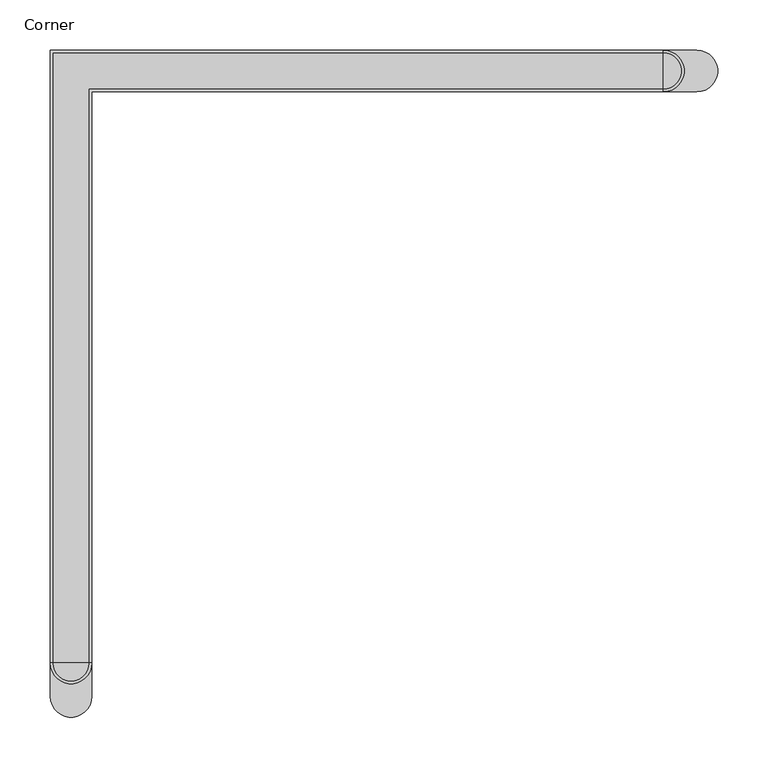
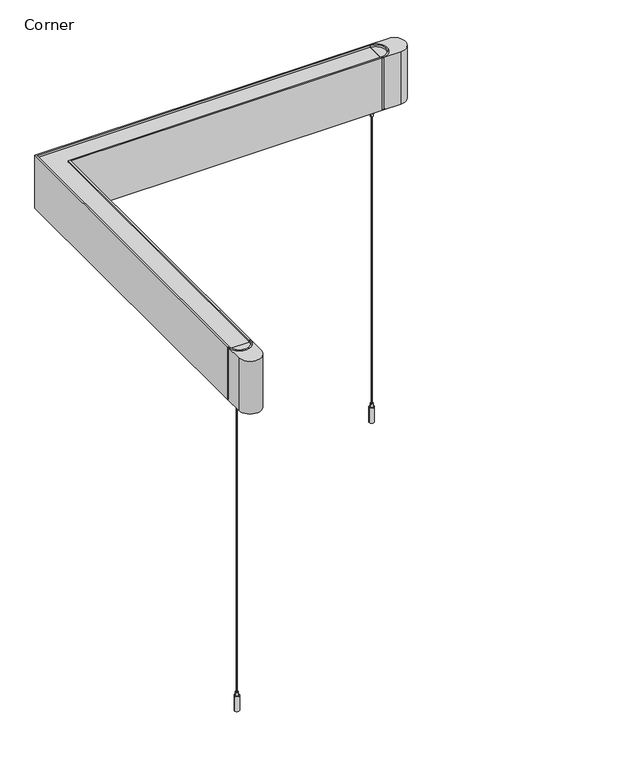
"""IFC4 building model written with IfcOpenShell, lengths in millimetres: light fixture geometry, Lighting-Pendant-Betacalco-Block-Corner : Corner."""

from ifc_helpers import new_model, si_unit, point, frame, frame_2d, origin, place, context, project, spatial, polyline, circle_curve, trimmed, segment, composite_curve, outline, extrude, source, transform, mapped, element, save
from ifc_brep_helpers import plane_surface, cylinder_surface, revolved_surface, advanced_brep


def corner_207d466a(model_context):
    return source(origin(), model_context, "Body", "SolidModel", [
        extrude(outline(composite_curve([segment(polyline([(588.9625, -20.6375), (588.9625, -18.0975)]), True, "CONTINUOUS"), segment(trimmed(circle_curve(frame_2d((588.9625, 0.0)), 18.0975), [point((588.9625, -18.0975))], [point((588.9625, 18.0975))], True, "CARTESIAN"), True, "CONTINUOUS"), segment(polyline([(588.9625, 18.0975), (588.9625, 20.6375)]), True, "CONTINUOUS"), segment(trimmed(circle_curve(frame_2d((588.9625, 0.0)), 20.6375), [point((588.9625, 20.6375))], [point((588.9625, -20.6375))], False, "CARTESIAN"), True, "CONTINUOUS")], self_intersect=False)), frame((0.0, 0.0, 611.1875), z_axis=(0.0, 0.0, 1.0), x_axis=(1.0, 0.0, 0.0)), (0.0, 0.0, 1.0), 100.0125),
        extrude(outline(composite_curve([segment(polyline([(588.9625, -18.0975), (588.9625, 18.0975)]), True, "CONTINUOUS"), segment(trimmed(circle_curve(frame_2d((588.9625, 0.0)), 18.0975), [point((588.9625, 18.0975))], [point((588.9625, -18.0975))], False, "CARTESIAN"), True, "CONTINUOUS")], self_intersect=False)), frame((0.0, 0.0, 705.9095588), z_axis=(0.0, 0.0, 1.0), x_axis=(1.0, 0.0, 0.0)), (0.0, 0.0, 1.0), 1.5875),
        advanced_brep(
        [(588.9625, 20.6375, 611.1875), (588.9625, -20.6375, 611.1875), (588.9625, -20.6375, 609.6), (588.9625, 20.6375, 609.6), (622.3, 20.6375, 609.6), (622.3, -20.6375, 609.6), (588.9625, 20.6375, 711.2), (588.9625, -20.6375, 711.2), (622.3, -20.6375, 711.2), (622.3, 20.6375, 711.2)],
        [
            (0, 1),
            (1, 0, circle_curve(frame((588.9625, 0.0, 611.1875), z_axis=(0.0, 0.0, 1.0), x_axis=(1.0, 0.0, 0.0)), 20.6375)),
            (2, 3),
            (3, 4),
            (4, 5, circle_curve(frame((622.3, 0.0, 609.6), z_axis=(0.0, 0.0, -1.0), x_axis=(1.0, 0.0, 0.0)), 20.6375)),
            (5, 2),
            (0, 3),
            (2, 1),
            (6, 7, circle_curve(frame((588.9625, 0.0, 711.2), z_axis=(0.0, 0.0, -1.0), x_axis=(1.0, 0.0, 0.0)), 20.6375)),
            (7, 8),
            (8, 9, circle_curve(frame((622.3, 0.0, 711.2), z_axis=(0.0, 0.0, 1.0), x_axis=(1.0, 0.0, 0.0)), 20.6375)),
            (9, 6),
            (6, 0),
            (1, 7),
            (5, 8),
            (4, 9),
        ],
        [
            plane_surface(frame((609.6, 0.0, 611.1875), z_axis=(0.0, 0.0, 1.0), x_axis=(0.0, 1.0, 0.0))),
            plane_surface(frame((609.6, 0.0, 609.6), z_axis=(0.0, 0.0, -1.0), x_axis=(0.0, -1.0, 0.0))),
            plane_surface(frame((588.9625, 20.6375, 611.1875), z_axis=(-1.0, 0.0, 0.0), x_axis=(0.0, 0.0, -1.0))),
            plane_surface(frame((609.6, 0.0, 711.2), z_axis=(0.0, 0.0, 1.0), x_axis=(0.0, -1.0, 0.0))),
            revolved_surface(polyline([(609.6, 0.0, 611.1875), (609.6, 0.0, 711.2)]), (588.9625, 0.0, 609.6), (0.0, 0.0, -1.0)),
            plane_surface(frame((588.9625, -20.6375, 711.2), z_axis=(0.0, -1.0, 0.0), x_axis=(0.0, 0.0, -1.0))),
            cylinder_surface(frame((622.3, 0.0, 609.6), z_axis=(0.0, 0.0, 1.0), x_axis=(1.0, 0.0, 0.0)), 20.6375),
            plane_surface(frame((622.3, 20.6375, 711.2), z_axis=(0.0, 1.0, 0.0), x_axis=(0.0, 0.0, -1.0))),
        ],
        [
            (0, [[1, 2]]),
            (1, [[3, 4, 5, 6]]),
            (2, [[-1, 7, -3, 8]]),
            (3, [[9, 10, 11, 12]]),
            (4, [[-9, 13, -2, 14]]),
            (5, [[-10, -14, -8, -6, 15]]),
            (6, [[-11, -15, -5, 16]]),
            (7, [[-12, -16, -4, -7, -13]]),
        ],
    ),
        extrude(outline(composite_curve([segment(polyline([(-20.6375, -588.9625), (-18.0975, -588.9625)]), True, "CONTINUOUS"), segment(trimmed(circle_curve(frame_2d((0.0, -588.9625)), 18.0975), [point((-18.0975, -588.9625))], [point((18.0975, -588.9625))], True, "CARTESIAN"), True, "CONTINUOUS"), segment(polyline([(18.0975, -588.9625), (20.6375, -588.9625)]), True, "CONTINUOUS"), segment(trimmed(circle_curve(frame_2d((0.0, -588.9625)), 20.6375), [point((20.6375, -588.9625))], [point((-20.6375, -588.9625))], False, "CARTESIAN"), True, "CONTINUOUS")], self_intersect=False)), frame((0.0, 0.0, 611.1875), z_axis=(0.0, 0.0, 1.0), x_axis=(1.0, 0.0, 0.0)), (0.0, 0.0, 1.0), 100.0125),
        extrude(outline(composite_curve([segment(polyline([(-18.0975, -588.9625), (18.0975, -588.9625)]), True, "CONTINUOUS"), segment(trimmed(circle_curve(frame_2d((0.0, -588.9625)), 18.0975), [point((18.0975, -588.9625))], [point((-18.0975, -588.9625))], False, "CARTESIAN"), True, "CONTINUOUS")], self_intersect=False)), frame((0.0, 0.0, 705.9095588), z_axis=(0.0, 0.0, 1.0), x_axis=(1.0, 0.0, 0.0)), (0.0, 0.0, 1.0), 1.5875),
        advanced_brep(
        [(20.6375, -588.9625, 611.1875), (-20.6375, -588.9625, 611.1875), (-20.6375, -588.9625, 609.6), (20.6375, -588.9625, 609.6), (20.6375, -622.3, 609.6), (-20.6375, -622.3, 609.6), (20.6375, -588.9625, 711.2), (-20.6375, -588.9625, 711.2), (-20.6375, -622.3, 711.2), (20.6375, -622.3, 711.2)],
        [
            (0, 1),
            (1, 0, circle_curve(frame((0.0, -588.9625, 611.1875), z_axis=(0.0, 0.0, 1.0), x_axis=(0.0, -1.0, 0.0)), 20.6375)),
            (2, 3),
            (3, 4),
            (4, 5, circle_curve(frame((0.0, -622.3, 609.6), z_axis=(0.0, 0.0, -1.0), x_axis=(0.0, -1.0, 0.0)), 20.6375)),
            (5, 2),
            (0, 3),
            (2, 1),
            (6, 7, circle_curve(frame((0.0, -588.9625, 711.2), z_axis=(0.0, 0.0, -1.0), x_axis=(0.0, -1.0, 0.0)), 20.6375)),
            (7, 8),
            (8, 9, circle_curve(frame((0.0, -622.3, 711.2), z_axis=(0.0, 0.0, 1.0), x_axis=(0.0, -1.0, 0.0)), 20.6375)),
            (9, 6),
            (6, 0),
            (1, 7),
            (5, 8),
            (4, 9),
        ],
        [
            plane_surface(frame((0.0, -609.6, 611.1875), z_axis=(0.0, 0.0, 1.0), x_axis=(1.0, 0.0, 0.0))),
            plane_surface(frame((0.0, -609.6, 609.6), z_axis=(0.0, 0.0, -1.0), x_axis=(-1.0, 0.0, 0.0))),
            plane_surface(frame((20.6375, -588.9625, 611.1875), z_axis=(0.0, 1.0, 0.0), x_axis=(0.0, 0.0, -1.0))),
            plane_surface(frame((0.0, -609.6, 711.2), z_axis=(0.0, 0.0, 1.0), x_axis=(-1.0, 0.0, 0.0))),
            revolved_surface(polyline([(0.0, -609.6, 611.1875), (0.0, -609.6, 711.2)]), (0.0, -588.9625, 609.6), (0.0, 0.0, -1.0)),
            plane_surface(frame((-20.6375, -588.9625, 711.2), z_axis=(-1.0, 0.0, 0.0), x_axis=(0.0, 0.0, -1.0))),
            cylinder_surface(frame((0.0, -622.3, 609.6), z_axis=(0.0, 0.0, 1.0), x_axis=(0.0, -1.0, 0.0)), 20.6375),
            plane_surface(frame((20.6375, -622.3, 711.2), z_axis=(1.0, 0.0, 0.0), x_axis=(0.0, 0.0, -1.0))),
        ],
        [
            (0, [[1, 2]]),
            (1, [[3, 4, 5, 6]]),
            (2, [[-1, 7, -3, 8]]),
            (3, [[9, 10, 11, 12]]),
            (4, [[-9, 13, -2, 14]]),
            (5, [[-10, -14, -8, -6, 15]]),
            (6, [[-11, -15, -5, 16]]),
            (7, [[-12, -16, -4, -7, -13]]),
        ],
    ),
        advanced_brep(
        [(585.7875015, 0.0, 0.0), (576.8974985, 0.0, 0.0), (576.8974985, 0.0, 28.4480024), (585.7875015, 0.0, 28.4480024), (578.8025002, 0.0, 28.4480024), (583.8824998, 0.0, 28.4480024), (578.8025002, 0.0, 35.4330037), (583.8824998, 0.0, 35.4330037), (581.3425, 0.0, 35.4330037), (581.3425, 0.0, 0.0)],
        [
            (0, 1, circle_curve(frame((581.3425, 0.0, 0.0), z_axis=(0.0, 0.0, 1.0), x_axis=(-1.0, 0.0, 0.0)), 4.4450015)),
            (1, 2),
            (2, 3, circle_curve(frame((581.3425, 0.0, 28.4480024), z_axis=(0.0, 0.0, -1.0), x_axis=(-1.0, 0.0, 0.0)), 4.4450015)),
            (3, 0),
            (1, 0, circle_curve(frame((581.3425, 0.0, 0.0), z_axis=(0.0, 0.0, 1.0), x_axis=(-1.0, 0.0, 0.0)), 4.4450015)),
            (3, 2, circle_curve(frame((581.3425, 0.0, 28.4480024), z_axis=(0.0, 0.0, -1.0), x_axis=(-1.0, 0.0, 0.0)), 4.4450015)),
            (2, 4),
            (4, 5, circle_curve(frame((581.3425, 0.0, 28.4480024), z_axis=(0.0, 0.0, -1.0), x_axis=(-1.0, 0.0, 0.0)), 2.5399998)),
            (5, 3),
            (5, 4, circle_curve(frame((581.3425, 0.0, 28.4480024), z_axis=(0.0, 0.0, -1.0), x_axis=(-1.0, 0.0, 0.0)), 2.5399998)),
            (4, 6),
            (6, 7, circle_curve(frame((581.3425, 0.0, 35.4330037), z_axis=(0.0, 0.0, -1.0), x_axis=(-1.0, 0.0, 0.0)), 2.5399998)),
            (7, 5),
            (7, 6, circle_curve(frame((581.3425, 0.0, 35.4330037), z_axis=(0.0, 0.0, -1.0), x_axis=(-1.0, 0.0, 0.0)), 2.5399998)),
            (6, 8),
            (8, 7),
            (9, 1),
            (0, 9),
        ],
        [
            cylinder_surface(frame((581.3425, 0.0, 2366.7150031), z_axis=(0.0, 0.0, -1.0), x_axis=(-1.0, 0.0, 0.0)), 4.4450015),
            plane_surface(frame((581.3425, 0.0, 28.4480024), z_axis=(0.0, 0.0, 1.0), x_axis=(-1.0, 0.0, 0.0))),
            cylinder_surface(frame((581.3425, 0.0, 2366.7150031), z_axis=(0.0, 0.0, -1.0), x_axis=(-1.0, 0.0, 0.0)), 2.5399998),
            plane_surface(frame((581.3425, 0.0, 35.4330037), z_axis=(0.0, 0.0, 1.0), x_axis=(-1.0, 0.0, 0.0))),
            plane_surface(frame((581.3425, 0.0, 0.0), z_axis=(0.0, 0.0, -1.0), x_axis=(-1.0, 0.0, 0.0))),
        ],
        [
            (0, [[1, 2, 3, 4]]),
            (0, [[5, -4, 6, -2]]),
            (1, [[-3, 7, 8, 9]]),
            (1, [[-6, -9, 10, -7]]),
            (2, [[-8, 11, 12, 13]]),
            (2, [[-10, -13, 14, -11]]),
            (3, [[-12, 15, 16]]),
            (3, [[-14, -16, -15]]),
            (4, [[17, -1, 18]]),
            (4, [[-18, -5, -17]]),
        ],
    ),
        advanced_brep(
        [(582.1362476, 0.0, 35.4330037), (580.5487524, 0.0, 35.4330037), (580.5487524, 0.0, 589.2774601), (582.1362476, 0.0, 589.2774601), (581.3425, 0.0, 35.4330037), (581.3425, 0.0, 589.2774601)],
        [
            (0, 1, circle_curve(frame((581.3425, 0.0, 35.4330037), z_axis=(0.0, 0.0, 1.0), x_axis=(-1.0, 0.0, 0.0)), 0.7937476)),
            (1, 2),
            (2, 3, circle_curve(frame((581.3425, 0.0, 589.2774601), z_axis=(0.0, 0.0, -1.0), x_axis=(-1.0, 0.0, 0.0)), 0.7937476)),
            (3, 0),
            (1, 0, circle_curve(frame((581.3425, 0.0, 35.4330037), z_axis=(0.0, 0.0, 1.0), x_axis=(-1.0, 0.0, 0.0)), 0.7937476)),
            (3, 2, circle_curve(frame((581.3425, 0.0, 589.2774601), z_axis=(0.0, 0.0, -1.0), x_axis=(-1.0, 0.0, 0.0)), 0.7937476)),
            (4, 1),
            (0, 4),
            (2, 5),
            (5, 3),
        ],
        [
            cylinder_surface(frame((581.3425, 0.0, 2366.7150031), z_axis=(0.0, 0.0, -1.0), x_axis=(-1.0, 0.0, 0.0)), 0.7937476),
            plane_surface(frame((581.3425, 0.0, 35.4330037), z_axis=(0.0, 0.0, -1.0), x_axis=(-1.0, 0.0, 0.0))),
            plane_surface(frame((581.3425, 0.0, 589.2774601), z_axis=(0.0, 0.0, 1.0), x_axis=(-1.0, 0.0, 0.0))),
        ],
        [
            (0, [[1, 2, 3, 4]]),
            (0, [[5, -4, 6, -2]]),
            (1, [[7, -1, 8]]),
            (1, [[-8, -5, -7]]),
            (2, [[-3, 9, 10]]),
            (2, [[-6, -10, -9]]),
        ],
    ),
        advanced_brep(
        [(585.7875015, 0.0, 596.2624614), (576.8974985, 0.0, 596.2624614), (576.8974985, 0.0, 609.6), (585.7875015, 0.0, 609.6), (583.8824998, 0.0, 596.2624614), (578.8025002, 0.0, 596.2624614), (583.8824998, 0.0, 589.2774601), (578.8025002, 0.0, 589.2774601), (581.3425, 0.0, 589.2774601), (581.3425, 0.0, 609.6)],
        [
            (0, 1, circle_curve(frame((581.3425, 0.0, 596.2624614), z_axis=(0.0, 0.0, 1.0), x_axis=(-1.0, 0.0, 0.0)), 4.4450015)),
            (1, 2),
            (2, 3, circle_curve(frame((581.3425, 0.0, 609.6), z_axis=(0.0, 0.0, -1.0), x_axis=(-1.0, 0.0, 0.0)), 4.4450015)),
            (3, 0),
            (1, 0, circle_curve(frame((581.3425, 0.0, 596.2624614), z_axis=(0.0, 0.0, 1.0), x_axis=(-1.0, 0.0, 0.0)), 4.4450015)),
            (3, 2, circle_curve(frame((581.3425, 0.0, 609.6), z_axis=(0.0, 0.0, -1.0), x_axis=(-1.0, 0.0, 0.0)), 4.4450015)),
            (4, 5, circle_curve(frame((581.3425, 0.0, 596.2624614), z_axis=(0.0, 0.0, 1.0), x_axis=(-1.0, 0.0, 0.0)), 2.5399998)),
            (5, 1),
            (0, 4),
            (5, 4, circle_curve(frame((581.3425, 0.0, 596.2624614), z_axis=(0.0, 0.0, 1.0), x_axis=(-1.0, 0.0, 0.0)), 2.5399998)),
            (6, 7, circle_curve(frame((581.3425, 0.0, 589.2774601), z_axis=(0.0, 0.0, 1.0), x_axis=(-1.0, 0.0, 0.0)), 2.5399998)),
            (7, 5),
            (4, 6),
            (7, 6, circle_curve(frame((581.3425, 0.0, 589.2774601), z_axis=(0.0, 0.0, 1.0), x_axis=(-1.0, 0.0, 0.0)), 2.5399998)),
            (8, 7),
            (6, 8),
            (2, 9),
            (9, 3),
        ],
        [
            cylinder_surface(frame((581.3425, 0.0, 2366.7150031), z_axis=(0.0, 0.0, -1.0), x_axis=(-1.0, 0.0, 0.0)), 4.4450015),
            plane_surface(frame((581.3425, 0.0, 596.2624614), z_axis=(0.0, 0.0, -1.0), x_axis=(-1.0, 0.0, 0.0))),
            cylinder_surface(frame((581.3425, 0.0, 2366.7150031), z_axis=(0.0, 0.0, -1.0), x_axis=(-1.0, 0.0, 0.0)), 2.5399998),
            plane_surface(frame((581.3425, 0.0, 589.2774601), z_axis=(0.0, 0.0, -1.0), x_axis=(-1.0, 0.0, 0.0))),
            plane_surface(frame((581.3425, 0.0, 609.6), z_axis=(0.0, 0.0, 1.0), x_axis=(-1.0, 0.0, 0.0))),
        ],
        [
            (0, [[1, 2, 3, 4]]),
            (0, [[5, -4, 6, -2]]),
            (1, [[7, 8, -1, 9]]),
            (1, [[10, -9, -5, -8]]),
            (2, [[11, 12, -7, 13]]),
            (2, [[14, -13, -10, -12]]),
            (3, [[15, -11, 16]]),
            (3, [[-16, -14, -15]]),
            (4, [[-3, 17, 18]]),
            (4, [[-6, -18, -17]]),
        ],
    ),
        advanced_brep(
        [(4.4450015, -581.3425, 0.0), (-4.4450015, -581.3425, 0.0), (-4.4450015, -581.3425, 28.4480024), (4.4450015, -581.3425, 28.4480024), (-2.5399998, -581.3425, 28.4480024), (2.5399998, -581.3425, 28.4480024), (-2.5399998, -581.3425, 35.4330037), (2.5399998, -581.3425, 35.4330037), (0.0, -581.3425, 35.4330037), (0.0, -581.3425, 0.0)],
        [
            (0, 1, circle_curve(frame((0.0, -581.3425, 0.0), z_axis=(0.0, 0.0, 1.0), x_axis=(-1.0, 0.0, 0.0)), 4.4450015)),
            (1, 2),
            (2, 3, circle_curve(frame((0.0, -581.3425, 28.4480024), z_axis=(0.0, 0.0, -1.0), x_axis=(-1.0, 0.0, 0.0)), 4.4450015)),
            (3, 0),
            (1, 0, circle_curve(frame((0.0, -581.3425, 0.0), z_axis=(0.0, 0.0, 1.0), x_axis=(-1.0, 0.0, 0.0)), 4.4450015)),
            (3, 2, circle_curve(frame((0.0, -581.3425, 28.4480024), z_axis=(0.0, 0.0, -1.0), x_axis=(-1.0, 0.0, 0.0)), 4.4450015)),
            (2, 4),
            (4, 5, circle_curve(frame((0.0, -581.3425, 28.4480024), z_axis=(0.0, 0.0, -1.0), x_axis=(-1.0, 0.0, 0.0)), 2.5399998)),
            (5, 3),
            (5, 4, circle_curve(frame((0.0, -581.3425, 28.4480024), z_axis=(0.0, 0.0, -1.0), x_axis=(-1.0, 0.0, 0.0)), 2.5399998)),
            (4, 6),
            (6, 7, circle_curve(frame((0.0, -581.3425, 35.4330037), z_axis=(0.0, 0.0, -1.0), x_axis=(-1.0, 0.0, 0.0)), 2.5399998)),
            (7, 5),
            (7, 6, circle_curve(frame((0.0, -581.3425, 35.4330037), z_axis=(0.0, 0.0, -1.0), x_axis=(-1.0, 0.0, 0.0)), 2.5399998)),
            (6, 8),
            (8, 7),
            (9, 1),
            (0, 9),
        ],
        [
            cylinder_surface(frame((0.0, -581.3425, 2366.7150031), z_axis=(0.0, 0.0, -1.0), x_axis=(-1.0, 0.0, 0.0)), 4.4450015),
            plane_surface(frame((0.0, -581.3425, 28.4480024), z_axis=(0.0, 0.0, 1.0), x_axis=(-1.0, 0.0, 0.0))),
            cylinder_surface(frame((0.0, -581.3425, 2366.7150031), z_axis=(0.0, 0.0, -1.0), x_axis=(-1.0, 0.0, 0.0)), 2.5399998),
            plane_surface(frame((0.0, -581.3425, 35.4330037), z_axis=(0.0, 0.0, 1.0), x_axis=(-1.0, 0.0, 0.0))),
            plane_surface(frame((0.0, -581.3425, 0.0), z_axis=(0.0, 0.0, -1.0), x_axis=(-1.0, 0.0, 0.0))),
        ],
        [
            (0, [[1, 2, 3, 4]]),
            (0, [[5, -4, 6, -2]]),
            (1, [[-3, 7, 8, 9]]),
            (1, [[-6, -9, 10, -7]]),
            (2, [[-8, 11, 12, 13]]),
            (2, [[-10, -13, 14, -11]]),
            (3, [[-12, 15, 16]]),
            (3, [[-14, -16, -15]]),
            (4, [[17, -1, 18]]),
            (4, [[-18, -5, -17]]),
        ],
    ),
        advanced_brep(
        [(0.7937476, -581.3425, 35.4330037), (-0.7937476, -581.3425, 35.4330037), (-0.7937476, -581.3425, 589.2774601), (0.7937476, -581.3425, 589.2774601), (0.0, -581.3425, 35.4330037), (0.0, -581.3425, 589.2774601)],
        [
            (0, 1, circle_curve(frame((0.0, -581.3425, 35.4330037), z_axis=(0.0, 0.0, 1.0), x_axis=(-1.0, 0.0, 0.0)), 0.7937476)),
            (1, 2),
            (2, 3, circle_curve(frame((0.0, -581.3425, 589.2774601), z_axis=(0.0, 0.0, -1.0), x_axis=(-1.0, 0.0, 0.0)), 0.7937476)),
            (3, 0),
            (1, 0, circle_curve(frame((0.0, -581.3425, 35.4330037), z_axis=(0.0, 0.0, 1.0), x_axis=(-1.0, 0.0, 0.0)), 0.7937476)),
            (3, 2, circle_curve(frame((0.0, -581.3425, 589.2774601), z_axis=(0.0, 0.0, -1.0), x_axis=(-1.0, 0.0, 0.0)), 0.7937476)),
            (4, 1),
            (0, 4),
            (2, 5),
            (5, 3),
        ],
        [
            cylinder_surface(frame((0.0, -581.3425, 2366.7150031), z_axis=(0.0, 0.0, -1.0), x_axis=(-1.0, 0.0, 0.0)), 0.7937476),
            plane_surface(frame((0.0, -581.3425, 35.4330037), z_axis=(0.0, 0.0, -1.0), x_axis=(-1.0, 0.0, 0.0))),
            plane_surface(frame((0.0, -581.3425, 589.2774601), z_axis=(0.0, 0.0, 1.0), x_axis=(-1.0, 0.0, 0.0))),
        ],
        [
            (0, [[1, 2, 3, 4]]),
            (0, [[5, -4, 6, -2]]),
            (1, [[7, -1, 8]]),
            (1, [[-8, -5, -7]]),
            (2, [[-3, 9, 10]]),
            (2, [[-6, -10, -9]]),
        ],
    ),
        advanced_brep(
        [(4.4450015, -581.3425, 596.2624614), (-4.4450015, -581.3425, 596.2624614), (-4.4450015, -581.3425, 609.6), (4.4450015, -581.3425, 609.6), (2.5399998, -581.3425, 596.2624614), (-2.5399998, -581.3425, 596.2624614), (2.5399998, -581.3425, 589.2774601), (-2.5399998, -581.3425, 589.2774601), (0.0, -581.3425, 589.2774601), (0.0, -581.3425, 609.6)],
        [
            (0, 1, circle_curve(frame((0.0, -581.3425, 596.2624614), z_axis=(0.0, 0.0, 1.0), x_axis=(-1.0, 0.0, 0.0)), 4.4450015)),
            (1, 2),
            (2, 3, circle_curve(frame((0.0, -581.3425, 609.6), z_axis=(0.0, 0.0, -1.0), x_axis=(-1.0, 0.0, 0.0)), 4.4450015)),
            (3, 0),
            (1, 0, circle_curve(frame((0.0, -581.3425, 596.2624614), z_axis=(0.0, 0.0, 1.0), x_axis=(-1.0, 0.0, 0.0)), 4.4450015)),
            (3, 2, circle_curve(frame((0.0, -581.3425, 609.6), z_axis=(0.0, 0.0, -1.0), x_axis=(-1.0, 0.0, 0.0)), 4.4450015)),
            (4, 5, circle_curve(frame((0.0, -581.3425, 596.2624614), z_axis=(0.0, 0.0, 1.0), x_axis=(-1.0, 0.0, 0.0)), 2.5399998)),
            (5, 1),
            (0, 4),
            (5, 4, circle_curve(frame((0.0, -581.3425, 596.2624614), z_axis=(0.0, 0.0, 1.0), x_axis=(-1.0, 0.0, 0.0)), 2.5399998)),
            (6, 7, circle_curve(frame((0.0, -581.3425, 589.2774601), z_axis=(0.0, 0.0, 1.0), x_axis=(-1.0, 0.0, 0.0)), 2.5399998)),
            (7, 5),
            (4, 6),
            (7, 6, circle_curve(frame((0.0, -581.3425, 589.2774601), z_axis=(0.0, 0.0, 1.0), x_axis=(-1.0, 0.0, 0.0)), 2.5399998)),
            (8, 7),
            (6, 8),
            (2, 9),
            (9, 3),
        ],
        [
            cylinder_surface(frame((0.0, -581.3425, 2366.7150031), z_axis=(0.0, 0.0, -1.0), x_axis=(-1.0, 0.0, 0.0)), 4.4450015),
            plane_surface(frame((0.0, -581.3425, 596.2624614), z_axis=(0.0, 0.0, -1.0), x_axis=(-1.0, 0.0, 0.0))),
            cylinder_surface(frame((0.0, -581.3425, 2366.7150031), z_axis=(0.0, 0.0, -1.0), x_axis=(-1.0, 0.0, 0.0)), 2.5399998),
            plane_surface(frame((0.0, -581.3425, 589.2774601), z_axis=(0.0, 0.0, -1.0), x_axis=(-1.0, 0.0, 0.0))),
            plane_surface(frame((0.0, -581.3425, 609.6), z_axis=(0.0, 0.0, 1.0), x_axis=(-1.0, 0.0, 0.0))),
        ],
        [
            (0, [[1, 2, 3, 4]]),
            (0, [[5, -4, 6, -2]]),
            (1, [[7, 8, -1, 9]]),
            (1, [[10, -9, -5, -8]]),
            (2, [[11, 12, -7, 13]]),
            (2, [[14, -13, -10, -12]]),
            (3, [[15, -11, 16]]),
            (3, [[-16, -14, -15]]),
            (4, [[-3, 17, 18]]),
            (4, [[-6, -18, -17]]),
        ],
    ),
        extrude(outline(polyline([(588.9625, 18.0975), (588.9625, -18.0975), (18.0975, -18.0975), (18.0975, -588.9625), (-18.0975, -588.9625), (-18.0975, 18.0975), (588.9625, 18.0975)])), frame((0.0, 0.0, 609.6), z_axis=(0.0, 0.0, 1.0), x_axis=(1.0, 0.0, 0.0)), (0.0, 0.0, 1.0), 1.5875),
        extrude(outline(polyline([(588.9625, 18.0975), (588.9625, -18.0975), (18.0975, -18.0975), (18.0975, -588.9625), (-18.0975, -588.9625), (-18.0975, 18.0975), (588.9625, 18.0975)])), frame((0.0, 0.0, 663.287913), z_axis=(0.0, 0.0, 1.0), x_axis=(1.0, 0.0, 0.0)), (0.0, 0.0, 1.0), 1.5875),
        extrude(outline(polyline([(588.9625, 18.0975), (588.9625, -18.0975), (18.0975, -18.0975), (18.0975, -588.9625), (-18.0975, -588.9625), (-18.0975, 18.0975), (588.9625, 18.0975)])), frame((0.0, 0.0, 705.9095588), z_axis=(0.0, 0.0, 1.0), x_axis=(1.0, 0.0, 0.0)), (0.0, 0.0, 1.0), 1.5875),
        extrude(outline(polyline([(588.9625, 20.6375), (588.9625, 18.0975), (-18.0975, 18.0975), (-18.0975, -588.9625), (-20.6375, -588.9625), (-20.6375, 20.6375), (588.9625, 20.6375)])), frame((0.0, 0.0, 609.6), z_axis=(0.0, 0.0, 1.0), x_axis=(1.0, 0.0, 0.0)), (0.0, 0.0, 1.0), 101.6),
        extrude(outline(polyline([(588.9625, -18.0975), (588.9625, -20.6375), (20.6375, -20.6375), (20.6375, -588.9625), (18.0975, -588.9625), (18.0975, -18.0975), (588.9625, -18.0975)])), frame((0.0, 0.0, 609.6), z_axis=(0.0, 0.0, 1.0), x_axis=(1.0, 0.0, 0.0)), (0.0, 0.0, 1.0), 101.6),
    ])


if __name__ == "__main__":
    model = new_model("IFC4")
    model_context = context("Model", 3, world=origin())
    ifc_project = project(units=[si_unit("LENGTHUNIT", "METRE", prefix="MILLI")], contexts=[model_context])
    site = spatial("IfcSite", under=ifc_project)
    building = spatial("IfcBuilding", under=site)
    placement = place(None, origin())
    corner_shape = corner_207d466a(model_context)
    element("IfcLightFixture", 1, ObjectType="Lighting-Pendant-Betacalco-Block-Corner : Corner", at=placement, inside=building, context=model_context, shape_type="MappedRepresentation", body=[
        mapped(corner_shape, transform((0.0, 0.0, 0.0), x_axis=(1.0, 0.0, 0.0), y_axis=(0.0, 1.0, 0.0), z_axis=(0.0, 0.0, 1.0))),
    ])
    save(model, "model.ifc")
